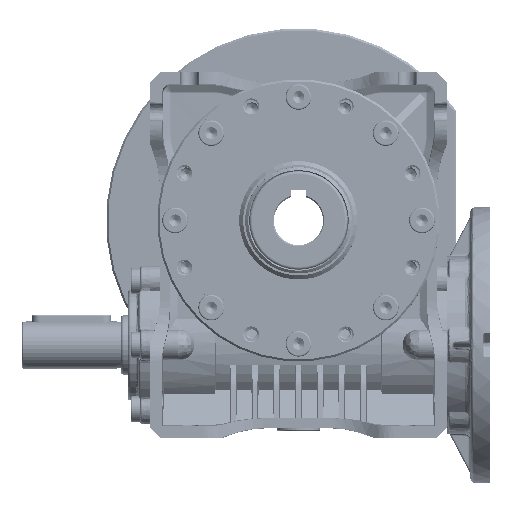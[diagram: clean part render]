
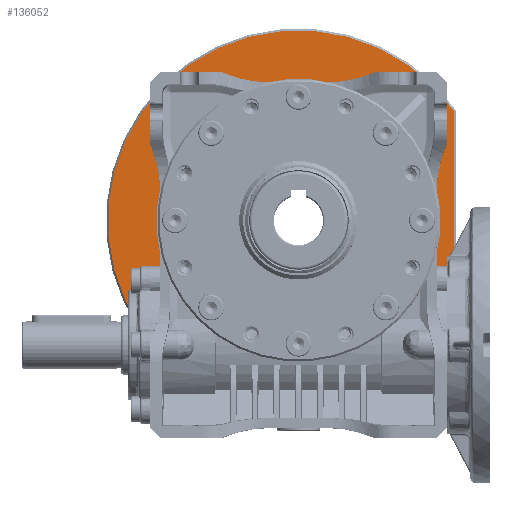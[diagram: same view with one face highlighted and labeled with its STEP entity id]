
A CAD part, top view. The second image highlights one B-rep face of the part: STEP entity #136052.
In plain terms, the highlighted planar face has unit normal (0, 0, 1).
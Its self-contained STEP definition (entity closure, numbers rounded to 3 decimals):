
#59 = ORIENTED_EDGE ( 'NONE', *, *, #75031, .T. ) ;
#1562 = VERTEX_POINT ( 'NONE', #17384 ) ;
#3954 = CARTESIAN_POINT ( 'NONE',  ( -60.104, 60.104, -81.5 ) ) ;
#5400 = DIRECTION ( 'NONE',  ( -0.707, 0.707, 0. ) ) ;
#5534 = PLANE ( 'NONE',  #153066 ) ;
#6321 = FACE_BOUND ( 'NONE', #117662, .T. ) ;
#6486 = VERTEX_POINT ( 'NONE', #101542 ) ;
#8651 = FACE_BOUND ( 'NONE', #148993, .T. ) ;
#11979 = CIRCLE ( 'NONE', #107604, 96.5 ) ;
#11990 = ORIENTED_EDGE ( 'NONE', *, *, #61486, .F. ) ;
#14892 = DIRECTION ( 'NONE',  ( 0., 0., -1. ) ) ;
#16785 = EDGE_LOOP ( 'NONE', ( #121940, #44025 ) ) ;
#16821 = CIRCLE ( 'NONE', #135125, 5.5 ) ;
#17384 = CARTESIAN_POINT ( 'NONE',  ( -56.215, 56.215, -81.5 ) ) ;
#23359 = CIRCLE ( 'NONE', #98847, 72. ) ;
#23793 = CARTESIAN_POINT ( 'NONE',  ( 0., 0., -81.5 ) ) ;
#25596 = ORIENTED_EDGE ( 'NONE', *, *, #102271, .T. ) ;
#26503 = CIRCLE ( 'NONE', #109544, 5.5 ) ;
#28994 = VERTEX_POINT ( 'NONE', #93822 ) ;
#29682 = EDGE_CURVE ( 'NONE', #53829, #143853, #119232, .T. ) ;
#30920 = EDGE_CURVE ( 'NONE', #143853, #53829, #26503, .T. ) ;
#32110 = CARTESIAN_POINT ( 'NONE',  ( 0., 0., -81.5 ) ) ;
#32931 = CARTESIAN_POINT ( 'NONE',  ( 60.104, -60.104, -81.5 ) ) ;
#37878 = AXIS2_PLACEMENT_3D ( 'NONE', #32110, #92785, #43176 ) ;
#39953 = CARTESIAN_POINT ( 'NONE',  ( 79., -55.419, -81.5 ) ) ;
#40628 = DIRECTION ( 'NONE',  ( 0., 1., 0. ) ) ;
#42510 = DIRECTION ( 'NONE',  ( -0.707, 0.707, 0. ) ) ;
#42738 = CIRCLE ( 'NONE', #113112, 5.5 ) ;
#43176 = DIRECTION ( 'NONE',  ( -0.707, 0.707, 0. ) ) ;
#43912 = CIRCLE ( 'NONE', #64009, 96.5 ) ;
#44025 = ORIENTED_EDGE ( 'NONE', *, *, #72176, .T. ) ;
#46224 = EDGE_LOOP ( 'NONE', ( #152995, #50311, #81359, #57211 ) ) ;
#47075 = CARTESIAN_POINT ( 'NONE',  ( -60.104, -60.104, -81.5 ) ) ;
#47362 = VERTEX_POINT ( 'NONE', #150122 ) ;
#48363 = AXIS2_PLACEMENT_3D ( 'NONE', #104783, #80348, #140219 ) ;
#48414 = VERTEX_POINT ( 'NONE', #51119 ) ;
#49831 = CIRCLE ( 'NONE', #62402, 5.5 ) ;
#50311 = ORIENTED_EDGE ( 'NONE', *, *, #135873, .T. ) ;
#51119 = CARTESIAN_POINT ( 'NONE',  ( 50.912, -50.912, -81.5 ) ) ;
#53197 = CARTESIAN_POINT ( 'NONE',  ( 0., 0., -81.5 ) ) ;
#53829 = VERTEX_POINT ( 'NONE', #113027 ) ;
#54149 = VERTEX_POINT ( 'NONE', #82624 ) ;
#55137 = CARTESIAN_POINT ( 'NONE',  ( 0., 0., -81.5 ) ) ;
#57211 = ORIENTED_EDGE ( 'NONE', *, *, #114667, .T. ) ;
#57423 = CARTESIAN_POINT ( 'NONE',  ( -63.993, 63.993, -81.5 ) ) ;
#59073 = CARTESIAN_POINT ( 'NONE',  ( -50.912, 50.912, -81.5 ) ) ;
#59434 = EDGE_CURVE ( 'NONE', #48414, #75539, #148938, .T. ) ;
#61486 = EDGE_CURVE ( 'NONE', #75539, #48414, #23359, .T. ) ;
#62282 = CARTESIAN_POINT ( 'NONE',  ( 0., 0., -81.5 ) ) ;
#62402 = AXIS2_PLACEMENT_3D ( 'NONE', #47075, #154260, #129054 ) ;
#62406 = CARTESIAN_POINT ( 'NONE',  ( 68.236, -68.236, -81.5 ) ) ;
#62568 = DIRECTION ( 'NONE',  ( 0., 0., -1. ) ) ;
#62658 = DIRECTION ( 'NONE',  ( 0., 0., 1. ) ) ;
#62967 = DIRECTION ( 'NONE',  ( -0.707, 0.707, 0. ) ) ;
#63876 = AXIS2_PLACEMENT_3D ( 'NONE', #32931, #149789, #137918 ) ;
#64009 = AXIS2_PLACEMENT_3D ( 'NONE', #133938, #96972, #147356 ) ;
#65400 = FACE_BOUND ( 'NONE', #116519, .T. ) ;
#66169 = FACE_OUTER_BOUND ( 'NONE', #46224, .T. ) ;
#66991 = EDGE_CURVE ( 'NONE', #96648, #71576, #43912, .T. ) ;
#68512 = FACE_BOUND ( 'NONE', #16785, .T. ) ;
#71576 = VERTEX_POINT ( 'NONE', #39953 ) ;
#71852 = DIRECTION ( 'NONE',  ( -0.707, 0.707, 0. ) ) ;
#72176 = EDGE_CURVE ( 'NONE', #140405, #6486, #49831, .T. ) ;
#73740 = AXIS2_PLACEMENT_3D ( 'NONE', #74381, #62568, #110627 ) ;
#74381 = CARTESIAN_POINT ( 'NONE',  ( -60.104, -60.104, -81.5 ) ) ;
#75031 = EDGE_CURVE ( 'NONE', #1562, #119412, #138178, .T. ) ;
#75539 = VERTEX_POINT ( 'NONE', #59073 ) ;
#75684 = EDGE_CURVE ( 'NONE', #149261, #47362, #42738, .T. ) ;
#76009 = CIRCLE ( 'NONE', #48363, 5.5 ) ;
#80348 = DIRECTION ( 'NONE',  ( 0., 0., -1. ) ) ;
#81335 = CIRCLE ( 'NONE', #73740, 5.5 ) ;
#81359 = ORIENTED_EDGE ( 'NONE', *, *, #66991, .T. ) ;
#82624 = CARTESIAN_POINT ( 'NONE',  ( -68.236, 68.236, -81.5 ) ) ;
#84027 = ORIENTED_EDGE ( 'NONE', *, *, #110761, .T. ) ;
#87579 = DIRECTION ( 'NONE',  ( 0., 0., -1. ) ) ;
#87894 = CARTESIAN_POINT ( 'NONE',  ( 79., 53.965, -81.5 ) ) ;
#88817 = EDGE_LOOP ( 'NONE', ( #25596, #59 ) ) ;
#89943 = EDGE_CURVE ( 'NONE', #6486, #140405, #81335, .T. ) ;
#92785 = DIRECTION ( 'NONE',  ( 0., 0., 1. ) ) ;
#93822 = CARTESIAN_POINT ( 'NONE',  ( 79., 55.419, -81.5 ) ) ;
#96648 = VERTEX_POINT ( 'NONE', #62406 ) ;
#96972 = DIRECTION ( 'NONE',  ( 0., 0., 1. ) ) ;
#98847 = AXIS2_PLACEMENT_3D ( 'NONE', #23793, #131736, #71852 ) ;
#100077 = CARTESIAN_POINT ( 'NONE',  ( -56.215, -63.993, -81.5 ) ) ;
#100429 = AXIS2_PLACEMENT_3D ( 'NONE', #123063, #87579, #135647 ) ;
#100741 = CARTESIAN_POINT ( 'NONE',  ( 60.104, 60.104, -81.5 ) ) ;
#101542 = CARTESIAN_POINT ( 'NONE',  ( -63.993, -56.215, -81.5 ) ) ;
#102271 = EDGE_CURVE ( 'NONE', #119412, #1562, #16821, .T. ) ;
#102800 = ORIENTED_EDGE ( 'NONE', *, *, #75684, .T. ) ;
#104279 = CARTESIAN_POINT ( 'NONE',  ( 56.215, 63.993, -81.5 ) ) ;
#104783 = CARTESIAN_POINT ( 'NONE',  ( 60.104, 60.104, -81.5 ) ) ;
#107604 = AXIS2_PLACEMENT_3D ( 'NONE', #62282, #148143, #148934 ) ;
#109544 = AXIS2_PLACEMENT_3D ( 'NONE', #148055, #14892, #62967 ) ;
#110627 = DIRECTION ( 'NONE',  ( -0.707, 0.707, 0. ) ) ;
#110761 = EDGE_CURVE ( 'NONE', #47362, #149261, #76009, .T. ) ;
#113027 = CARTESIAN_POINT ( 'NONE',  ( 56.215, -56.215, -81.5 ) ) ;
#113112 = AXIS2_PLACEMENT_3D ( 'NONE', #100741, #124349, #5400 ) ;
#114214 = ORIENTED_EDGE ( 'NONE', *, *, #59434, .F. ) ;
#114667 = EDGE_CURVE ( 'NONE', #71576, #28994, #136735, .T. ) ;
#115014 = FACE_BOUND ( 'NONE', #88817, .T. ) ;
#116519 = EDGE_LOOP ( 'NONE', ( #102800, #84027 ) ) ;
#117662 = EDGE_LOOP ( 'NONE', ( #127442, #128169 ) ) ;
#119232 = CIRCLE ( 'NONE', #63876, 5.5 ) ;
#119412 = VERTEX_POINT ( 'NONE', #57423 ) ;
#120941 = EDGE_CURVE ( 'NONE', #28994, #54149, #137068, .T. ) ;
#121940 = ORIENTED_EDGE ( 'NONE', *, *, #89943, .T. ) ;
#123063 = CARTESIAN_POINT ( 'NONE',  ( -60.104, 60.104, -81.5 ) ) ;
#123315 = DIRECTION ( 'NONE',  ( -0.707, 0.707, 0. ) ) ;
#124349 = DIRECTION ( 'NONE',  ( 0., 0., -1. ) ) ;
#127442 = ORIENTED_EDGE ( 'NONE', *, *, #29682, .T. ) ;
#128049 = CARTESIAN_POINT ( 'NONE',  ( 63.993, -63.993, -81.5 ) ) ;
#128169 = ORIENTED_EDGE ( 'NONE', *, *, #30920, .T. ) ;
#129054 = DIRECTION ( 'NONE',  ( -0.707, 0.707, 0. ) ) ;
#131736 = DIRECTION ( 'NONE',  ( 0., 0., 1. ) ) ;
#131877 = VECTOR ( 'NONE', #40628, 1000. ) ;
#133938 = CARTESIAN_POINT ( 'NONE',  ( 0., 0., -81.5 ) ) ;
#135125 = AXIS2_PLACEMENT_3D ( 'NONE', #3954, #150445, #42510 ) ;
#135647 = DIRECTION ( 'NONE',  ( -0.707, 0.707, 0. ) ) ;
#135873 = EDGE_CURVE ( 'NONE', #54149, #96648, #11979, .T. ) ;
#136052 = ADVANCED_FACE ( 'NONE', ( #66169, #8651, #115014, #65400, #6321, #68512 ), #5534, .T. ) ;
#136735 = LINE ( 'NONE', #87894, #131877 ) ;
#137068 = CIRCLE ( 'NONE', #144620, 96.5 ) ;
#137918 = DIRECTION ( 'NONE',  ( -0.707, 0.707, 0. ) ) ;
#138178 = CIRCLE ( 'NONE', #100429, 5.5 ) ;
#138627 = DIRECTION ( 'NONE',  ( 0., 0., 1. ) ) ;
#140219 = DIRECTION ( 'NONE',  ( -0.707, 0.707, 0. ) ) ;
#140405 = VERTEX_POINT ( 'NONE', #100077 ) ;
#143853 = VERTEX_POINT ( 'NONE', #128049 ) ;
#144620 = AXIS2_PLACEMENT_3D ( 'NONE', #53197, #62658, #123315 ) ;
#147356 = DIRECTION ( 'NONE',  ( -0.707, 0.707, 0. ) ) ;
#148055 = CARTESIAN_POINT ( 'NONE',  ( 60.104, -60.104, -81.5 ) ) ;
#148143 = DIRECTION ( 'NONE',  ( 0., 0., 1. ) ) ;
#148934 = DIRECTION ( 'NONE',  ( -0.707, 0.707, 0. ) ) ;
#148938 = CIRCLE ( 'NONE', #37878, 72. ) ;
#148993 = EDGE_LOOP ( 'NONE', ( #11990, #114214 ) ) ;
#149261 = VERTEX_POINT ( 'NONE', #104279 ) ;
#149719 = DIRECTION ( 'NONE',  ( -0.707, 0.707, 0. ) ) ;
#149789 = DIRECTION ( 'NONE',  ( 0., 0., -1. ) ) ;
#150122 = CARTESIAN_POINT ( 'NONE',  ( 63.993, 56.215, -81.5 ) ) ;
#150445 = DIRECTION ( 'NONE',  ( 0., 0., -1. ) ) ;
#152995 = ORIENTED_EDGE ( 'NONE', *, *, #120941, .T. ) ;
#153066 = AXIS2_PLACEMENT_3D ( 'NONE', #55137, #138627, #149719 ) ;
#154260 = DIRECTION ( 'NONE',  ( 0., 0., -1. ) ) ;
